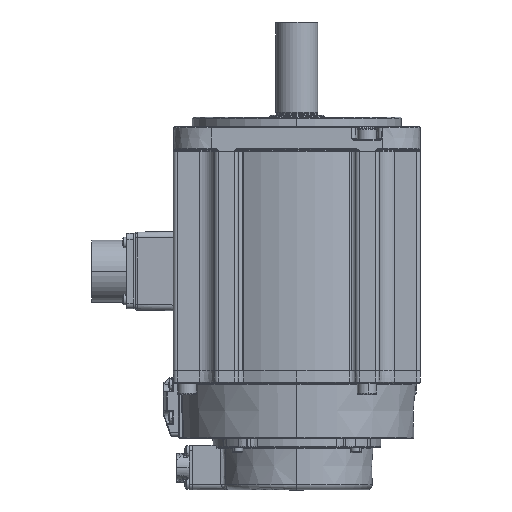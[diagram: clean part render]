
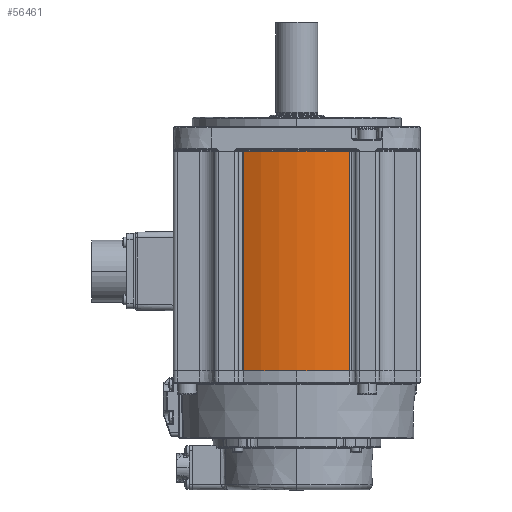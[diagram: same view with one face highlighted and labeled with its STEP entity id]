
A CAD part, left-side view. The second image highlights one B-rep face of the part: STEP entity #56461.
In plain terms, the highlighted cylindrical face has radius 64.5 mm (diameter 129 mm), a partial arc.
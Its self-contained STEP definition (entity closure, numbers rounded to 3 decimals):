
#81 = CARTESIAN_POINT ( 'NONE',  ( 0., 0., -57.7 ) ) ;
#4477 = DIRECTION ( 'NONE',  ( 0., 1., 0. ) ) ;
#4683 = DIRECTION ( 'NONE',  ( 0., 0., 1. ) ) ;
#5402 = DIRECTION ( 'NONE',  ( 0., 0., 1. ) ) ;
#5609 = EDGE_CURVE ( 'NONE', #20436, #19731, #30071, .T. ) ;
#6607 = VECTOR ( 'NONE', #5402, 1000. ) ;
#8912 = CARTESIAN_POINT ( 'NONE',  ( 0., 0., -58.7 ) ) ;
#9841 = CARTESIAN_POINT ( 'NONE',  ( -58.154, -27.9, -58.7 ) ) ;
#10550 = CARTESIAN_POINT ( 'NONE',  ( -58.154, -27.9, -57.7 ) ) ;
#10558 = VERTEX_POINT ( 'NONE', #33742 ) ;
#13486 = VECTOR ( 'NONE', #23082, 1000. ) ;
#16478 = CIRCLE ( 'NONE', #46736, 64.5 ) ;
#16759 = EDGE_CURVE ( 'NONE', #21482, #10558, #45855, .T. ) ;
#17740 = DIRECTION ( 'NONE',  ( 1., 0., 0. ) ) ;
#19731 = VERTEX_POINT ( 'NONE', #30434 ) ;
#20436 = VERTEX_POINT ( 'NONE', #10550 ) ;
#21482 = VERTEX_POINT ( 'NONE', #46740 ) ;
#23082 = DIRECTION ( 'NONE',  ( 0., 0., -1. ) ) ;
#25526 = ORIENTED_EDGE ( 'NONE', *, *, #5609, .T. ) ;
#27428 = ORIENTED_EDGE ( 'NONE', *, *, #53006, .F. ) ;
#30071 = LINE ( 'NONE', #9841, #6607 ) ;
#30434 = CARTESIAN_POINT ( 'NONE',  ( -58.154, -27.9, 57.7 ) ) ;
#30852 = DIRECTION ( 'NONE',  ( 0., 0., -1. ) ) ;
#31052 = CARTESIAN_POINT ( 'NONE',  ( 0., 0., 57.7 ) ) ;
#33742 = CARTESIAN_POINT ( 'NONE',  ( -58.154, 27.9, -57.7 ) ) ;
#35496 = DIRECTION ( 'NONE',  ( 0., -1., 0. ) ) ;
#38856 = EDGE_CURVE ( 'NONE', #21482, #19731, #51303, .T. ) ;
#39535 = DIRECTION ( 'NONE',  ( 0., 0., 1. ) ) ;
#40396 = ORIENTED_EDGE ( 'NONE', *, *, #38856, .F. ) ;
#45855 = LINE ( 'NONE', #53887, #13486 ) ;
#46736 = AXIS2_PLACEMENT_3D ( 'NONE', #81, #30852, #4477 ) ;
#46740 = CARTESIAN_POINT ( 'NONE',  ( -58.154, 27.9, 57.7 ) ) ;
#48010 = AXIS2_PLACEMENT_3D ( 'NONE', #8912, #39535, #17740 ) ;
#49912 = AXIS2_PLACEMENT_3D ( 'NONE', #31052, #4683, #35496 ) ;
#51078 = ORIENTED_EDGE ( 'NONE', *, *, #16759, .T. ) ;
#51303 = CIRCLE ( 'NONE', #49912, 64.5 ) ;
#52722 = CYLINDRICAL_SURFACE ( 'NONE', #48010, 64.5 ) ;
#53006 = EDGE_CURVE ( 'NONE', #20436, #10558, #16478, .T. ) ;
#53887 = CARTESIAN_POINT ( 'NONE',  ( -58.154, 27.9, -58.7 ) ) ;
#54088 = FACE_OUTER_BOUND ( 'NONE', #55101, .T. ) ;
#55101 = EDGE_LOOP ( 'NONE', ( #27428, #25526, #40396, #51078 ) ) ;
#56461 = ADVANCED_FACE ( 'NONE', ( #54088 ), #52722, .T. ) ;
